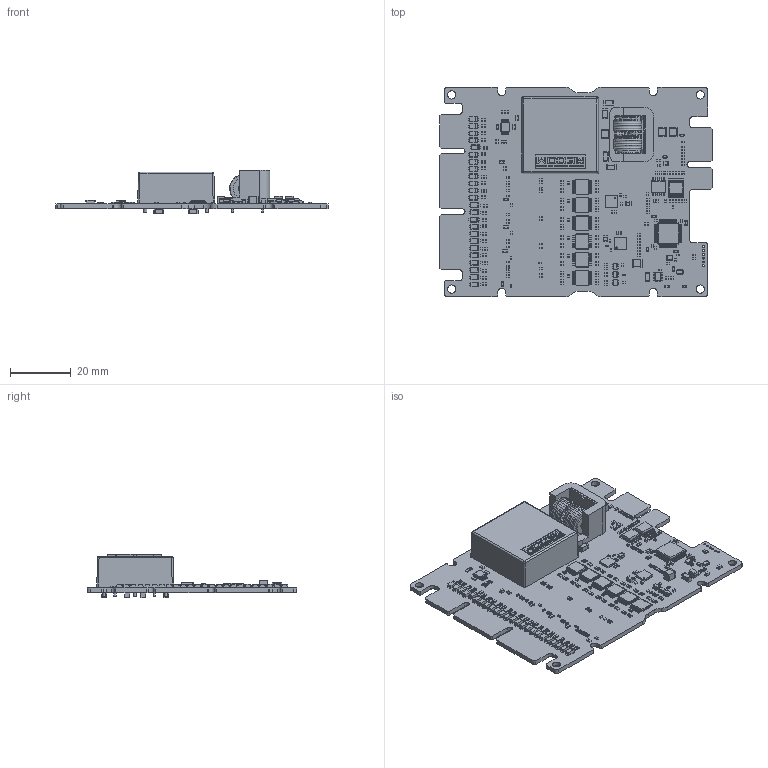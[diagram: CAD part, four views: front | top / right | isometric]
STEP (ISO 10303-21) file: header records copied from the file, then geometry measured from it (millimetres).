
FILE_DESCRIPTION(('STEP AP214'),'1');
FILE_NAME('module-template.step','2026-09-27T13:29:10',(' '),(' '),'Spatial InterOp 3D',' ',' ');
FILE_SCHEMA(('AUTOMOTIVE_DESIGN { 1 0 10303 214 1 1 1 1 }'));
Length unit declared in the file: metre
Products named in the file (28): Aimtec_AM20CW; REC20K-Z_20230611; module-template; C_0402_1005Metric; R_0402_1005Metric; L_0402_1005Metric; D_SOD-123F; QFN-24_4x4mm_P0.5mm; LQFP-48_7x7mm_P0.5mm; SOT-363_SC-70-6; SOT-23-6; Texas_RGE0024C_VQFN-24-1EP_4x4mm_P0.5mm_EP2.1x2.1mm; TSSOP-14_4.4x5mm_P0.65mm; C_1210_3225Metric; R_0603_1608Metric; TSSOP-8_3x3mm_P0.65mm; D_SOD-523; SOT-583-8; SOT-553; C_0603_1608Metric; C_1206_3216Metric; C_0805_2012Metric; LED_0603_1608Metric; Kemet_SSRH7H-M20016; Crystal_SMD_2016-4Pin_2.0x1.6mm; SOIC-8_3.9x4.9mm_P1.27mm; SSOP-16_3.9x4.9mm_P0.635mm; AC0328-dio-24v_PCB
Assembly tree (299 placements, depth 3):
  module-template
    Aimtec_AM20CW
      REC20K-Z_20230611
    C_0402_1005Metric  x65
    R_0402_1005Metric  x147
    L_0402_1005Metric  x8
    D_SOD-123F  x24
    QFN-24_4x4mm_P0.5mm
    LQFP-48_7x7mm_P0.5mm
    SOT-363_SC-70-6  x3
    SOT-23-6
    Texas_RGE0024C_VQFN-24-1EP_4x4mm_P0.5mm_EP2.1x2.1mm
    TSSOP-14_4.4x5mm_P0.65mm  x6
    C_1210_3225Metric  x4
    R_0603_1608Metric  x7
    TSSOP-8_3x3mm_P0.65mm
    D_SOD-523  x2
    SOT-583-8
    SOT-553
    C_0603_1608Metric  x5
    C_1206_3216Metric  x9
    C_0805_2012Metric  x2
    LED_0603_1608Metric  x3
    Kemet_SSRH7H-M20016
    Crystal_SMD_2016-4Pin_2.0x1.6mm
    SOIC-8_3.9x4.9mm_P1.27mm
    SSOP-16_3.9x4.9mm_P0.635mm
    AC0328-dio-24v_PCB
Bounding box: 90 x 69 x 14.26 mm (x, y, z)
Volume: 14404.1 mm3; surface area: 24045.3 mm2
Topology: 301 solids, 303 shells, 10720 faces, 28642 edges, 18819 vertices
Faces by surface type: plane 7180, cylinder 3426, bspline 57, torus 48, cone 5, sphere 4
Full cylindrical faces by diameter (mm): 0.1 x1, 0.25 x1, 0.4 x1, 0.5 x1, 0.65 x6, 0.7 x4, 0.8 x6, 1 x22, 1.15 x1, 1.5 x18, 2.7 x4, 3.5 x2, 7 x1, 9 x4
Entity records: 185200 total; most frequent: CARTESIAN_POINT 19870, ORIENTED_EDGE 17812, DIRECTION 17519, PRESENTATION_STYLE_ASSIGNMENT 14117, COLOUR_RGB 14117, STYLED_ITEM 12176, CURVE_STYLE 10785, DRAUGHTING_PRE_DEFINED_CURVE_FONT 10785
